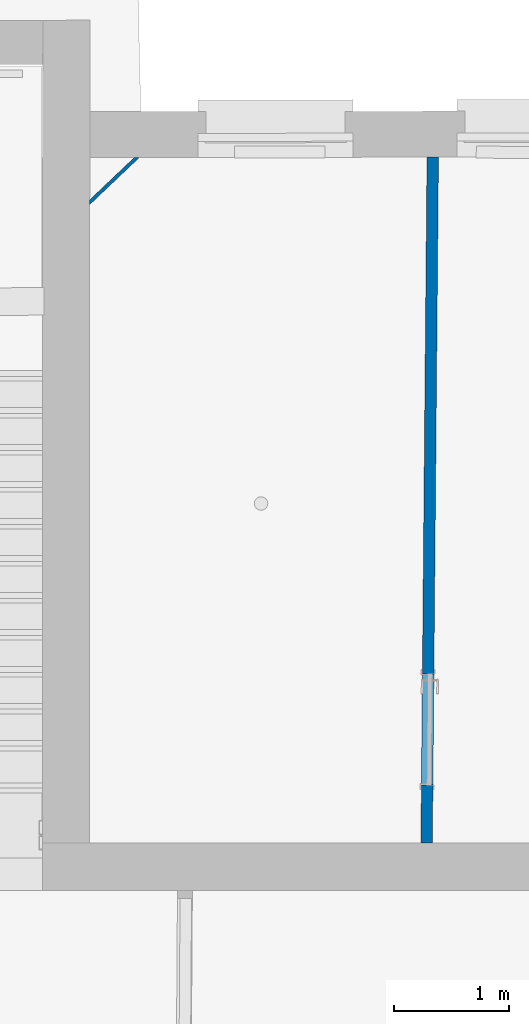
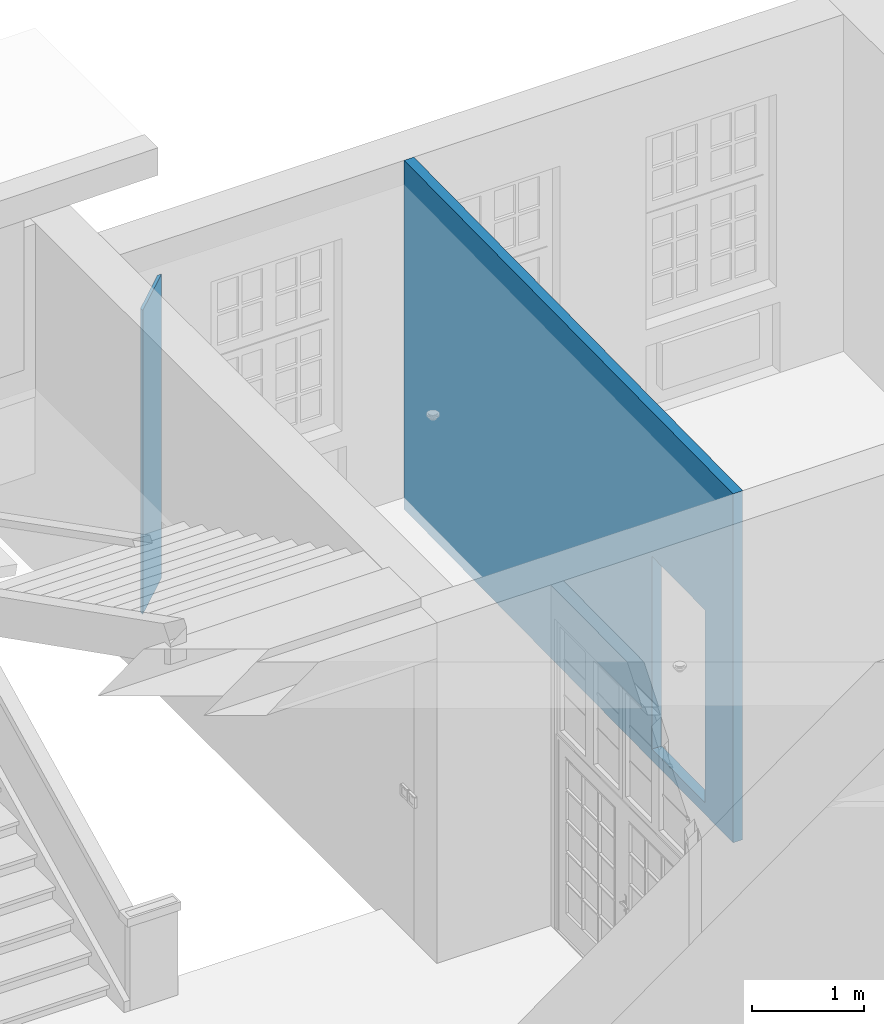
# One storey, part 35 of 158: 2 walls, 1 opening.
"""IFC2X3 building model written with IfcOpenShell, lengths in metres."""

from ifc_helpers import new_model, entity, si_unit, converted_unit, derived_unit, money_unit, direction, frame, origin_with_axes, origin_2d_with_axis, place, context, subcontext, project, spatial, polyline, rectangle, outline, extrude, material, layer, layer_set, layer_usage, type_object, element, save


model = new_model("IFC2X3")

# Units and contexts
model_context = context("Model", 3, precision=1e-05, world=origin_with_axes(), true_north=direction((0.0, 1.0)))
body_context = subcontext(model_context, "Body", "Model", "MODEL_VIEW")
ifc_project = project(units=[si_unit("LENGTHUNIT", "METRE"), si_unit("AREAUNIT", "SQUARE_METRE"), si_unit("VOLUMEUNIT", "CUBIC_METRE"), converted_unit("PLANEANGLEUNIT", "DEGREE", entity("IfcPlaneAngleMeasure", 0.0174532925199), si_unit("PLANEANGLEUNIT", "RADIAN"), dimensions=[0, 0, 0, 0, 0, 0, 0]), money_unit("EUR"), converted_unit("TIMEUNIT", "Year", entity("IfcTimeMeasure", 31556926.0), si_unit("TIMEUNIT", "SECOND"), dimensions=[0, 0, 1, 0, 0, 0, 0]), si_unit("MASSUNIT", "GRAM", prefix="KILO"), si_unit("THERMODYNAMICTEMPERATUREUNIT", "DEGREE_CELSIUS"), si_unit("LUMINOUSINTENSITYUNIT", "LUMEN"), si_unit("ENERGYUNIT", "JOULE", prefix="MEGA"), derived_unit("THERMALCONDUCTANCEUNIT", [(si_unit("POWERUNIT", "WATT"), 1), (si_unit("LENGTHUNIT", "METRE"), -1), (si_unit("THERMODYNAMICTEMPERATUREUNIT", "KELVIN"), -1)]), derived_unit("SPECIFICHEATCAPACITYUNIT", [(si_unit("ENERGYUNIT", "JOULE"), 1), (si_unit("MASSUNIT", "GRAM", prefix="KILO"), -1), (si_unit("THERMODYNAMICTEMPERATUREUNIT", "KELVIN"), -1)]), derived_unit("MASSDENSITYUNIT", [(si_unit("MASSUNIT", "GRAM", prefix="KILO"), 1), (si_unit("VOLUMEUNIT", "CUBIC_METRE"), -1)])], contexts=[model_context])

# Site, building, storey
site_placement = place(None, origin_with_axes())
site = spatial("IfcSite", under=ifc_project, at=site_placement, Name="Gelände", CompositionType="ELEMENT")
building_placement = place(site_placement, origin_with_axes())
building = spatial("IfcBuilding", under=site, at=building_placement, Name="Gebäude", CompositionType="ELEMENT")
storey_placement = place(building_placement, origin_with_axes())
storey = spatial("IfcBuildingStorey", under=building, at=storey_placement, Name="ERDGESCHOSS", CompositionType="ELEMENT", Elevation=0.0)

# Wall
ifc_material = material(Name="43_Gipskarton")
ifc_layer_1 = layer(ifc_material, 0.03, ventilated="UNKNOWN")
ifc_layer_set_1 = layer_set([ifc_layer_1], Name="43_Gipskarton 0.03")
ifc_layer_usage_1 = layer_usage(ifc_layer_set_1, "AXIS2", "NEGATIVE", 0.03)
wall_type_1 = type_object("IfcWallType", Name="43_Gipskarton 30", PredefinedType="ELEMENTEDWALL")
wall_1_placement = place(storey_placement, frame((-4.46270344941, 25.2520871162, -0.08), z_axis=(0.0, 0.0, 1.0), x_axis=(0.724973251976, 0.688777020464, 0.0)))
element("IfcWallStandardCase", 1, at=wall_1_placement, inside=storey, type_object=wall_type_1, material=ifc_layer_usage_1, Name="Wand-038", ObjectType="ELEMENTEDWALL", context=body_context, shape_type="SweptSolid", body=[
    extrude(outline(polyline([(0.0, 0.0), (0.594854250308, 0.0), (0.563189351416, 0.03), (0.0285273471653, 0.03), (0.0, 0.0)])), origin_with_axes(), (0.0, 0.0, 1.0), 3.32),
])

# Wall, opening
ifc_layer_2 = layer(ifc_material, 0.1, ventilated="UNKNOWN")
ifc_layer_set_2 = layer_set([ifc_layer_2], Name="43_Gipskarton 0.1")
ifc_layer_usage_2 = layer_usage(ifc_layer_set_2, "AXIS2", "NEGATIVE", 0.0)
wall_type_2 = type_object("IfcWallType", Name="43_Gipskarton 100", PredefinedType="ELEMENTEDWALL")
wall_2_placement = place(storey_placement, frame((-1.42108539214, 26.0654513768, -0.21), z_axis=(0.0, 0.0, 1.0), x_axis=(-0.00889496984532, -0.999960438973, 0.0)))
wall_2 = element("IfcWallStandardCase", 2, at=wall_2_placement, inside=storey, type_object=wall_type_2, material=ifc_layer_usage_2, Name="Wand-038", ObjectType="ELEMENTEDWALL", context=body_context, shape_type="SweptSolid", body=[
    extrude(outline(polyline([(0.401050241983, -0.1), (6.37488743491, -0.1), (6.37396878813, 0.0), (0.400021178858, 0.0), (0.401050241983, -0.1)])), origin_with_axes(), (0.0, 0.0, 1.0), 3.81),
])
opening_placement = place(wall_2_placement, frame((5.3862509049, 0.0, 0.126115), z_axis=(0.0, 0.0, 1.0), x_axis=(1.0, 0.0, 0.0)))
element("IfcOpeningElement", 3, at=opening_placement, cuts=wall_2, Name="Tür-022", context=body_context, shape_type="SweptSolid", body=[
    extrude(rectangle(XDim=0.966881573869, YDim=2.103887, at=origin_2d_with_axis()), frame((0.0, -0.1, 1.0519435), z_axis=(0.0, 1.0, 0.0), x_axis=(1.0, 0.0, 0.0)), (0.0, 0.0, 1.0), 0.3),
])

save(model, "model.ifc")
